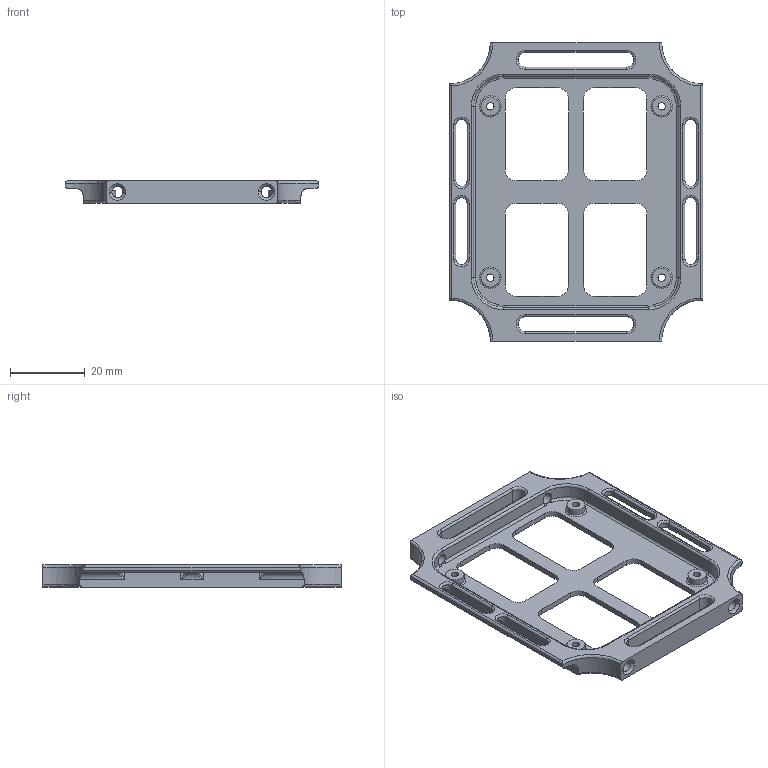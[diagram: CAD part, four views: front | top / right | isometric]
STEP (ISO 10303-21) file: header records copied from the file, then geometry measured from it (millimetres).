
FILE_DESCRIPTION (( 'STEP AP214' ), '1' );
FILE_NAME ('body_structure_bottom.STEP', '2020-10-14T11:46:42', ( '' ), ( '' ), 'SwSTEP 2.0', 'SolidWorks 2017', '' );
FILE_SCHEMA (( 'AUTOMOTIVE_DESIGN' ));
Length unit declared in the file: millimetre
Products named in the file (1): body_structure_bottom
Bounding box: 68 x 80 x 6 mm (x, y, z)
Volume: 8492.9 mm3; surface area: 10152.7 mm2
Topology: 1 solids, 1 shells, 213 faces, 562 edges, 336 vertices
Faces by surface type: cylinder 98, torus 48, plane 43, bspline 16, cone 8
Entity records: 7334 total; most frequent: CARTESIAN_POINT 2004, DIRECTION 1162, ORIENTED_EDGE 1100, EDGE_CURVE 550, AXIS2_PLACEMENT_3D 470, VERTEX_POINT 336, CIRCLE 272, EDGE_LOOP 246
